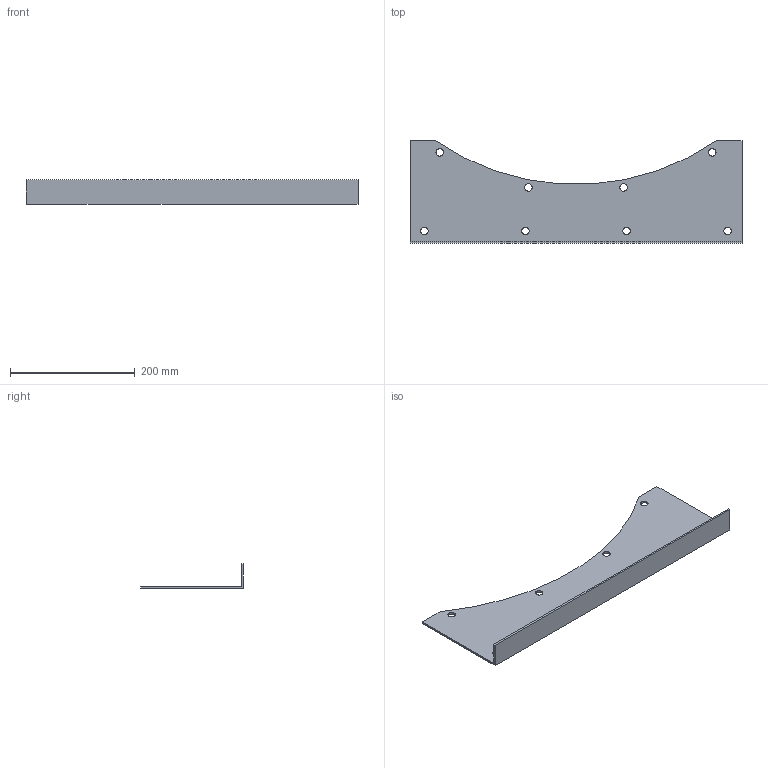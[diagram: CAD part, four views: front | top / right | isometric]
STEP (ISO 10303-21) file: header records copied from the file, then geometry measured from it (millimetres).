
FILE_DESCRIPTION(('STEP AP214'),'1');
FILE_NAME('accessory_5138889000.stp','2017-10-09T07:39:11',('TraceParts'),('TraceParts S.A.'),'Spatial InterOp 3D',' ',' ');
FILE_SCHEMA(('automotive_design'));
Length unit declared in the file: millimetre
Products named in the file (1): accessory_5138889000
Bounding box: 532 x 165 x 40 mm (x, y, z)
Volume: 254894.1 mm3; surface area: 175324.7 mm2
Topology: 1 solids, 1 shells, 26 faces, 72 edges, 48 vertices
Faces by surface type: cylinder 17, plane 9
Entity records: 1106 total; most frequent: DIRECTION 160, CARTESIAN_POINT 147, ORIENTED_EDGE 144, EDGE_CURVE 72, AXIS2_PLACEMENT_3D 61, VERTEX_POINT 48, EDGE_LOOP 42, LINE 38
